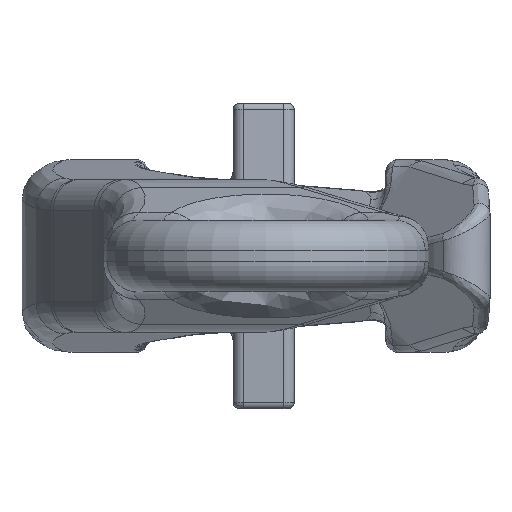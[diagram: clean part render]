
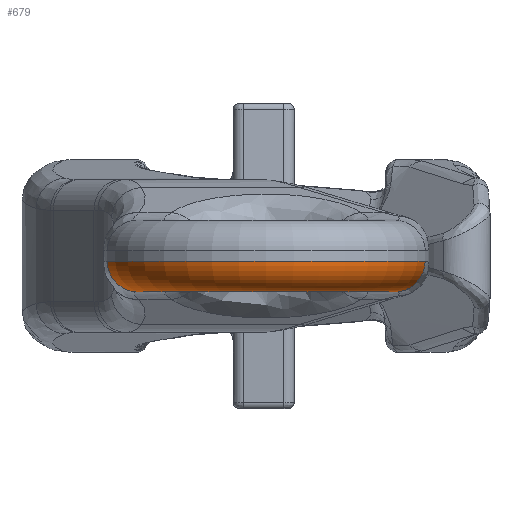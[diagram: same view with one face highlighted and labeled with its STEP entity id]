
A CAD part, left-side view. The second image highlights one B-rep face of the part: STEP entity #679.
In plain terms, the highlighted toroidal (fillet/blend) face has major radius 26 mm and minor radius 6 mm.
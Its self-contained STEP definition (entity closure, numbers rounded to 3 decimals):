
#46=TOROIDAL_SURFACE('',#4044,26.,6.);
#57=CIRCLE('',#3915,32.);
#66=CIRCLE('',#3949,26.);
#119=CIRCLE('',#4043,6.);
#249=(
BOUNDED_CURVE()
B_SPLINE_CURVE(2,(#7494,#7495,#7496),.UNSPECIFIED.,.F.,.F.)
B_SPLINE_CURVE_WITH_KNOTS((3,3),(0.,1.),.UNSPECIFIED.)
CURVE()
GEOMETRIC_REPRESENTATION_ITEM()
RATIONAL_B_SPLINE_CURVE((1.,0.707,1.))
REPRESENTATION_ITEM('')
);
#679=ADVANCED_FACE('',(#1090),#46,.T.);
#1090=FACE_OUTER_BOUND('',#1347,.T.);
#1347=EDGE_LOOP('',(#1995,#1996,#1997,#1998));
#1995=ORIENTED_EDGE('',*,*,#3334,.T.);
#1996=ORIENTED_EDGE('',*,*,#3191,.F.);
#1997=ORIENTED_EDGE('',*,*,#3336,.F.);
#1998=ORIENTED_EDGE('',*,*,#3115,.F.);
#2771=VERTEX_POINT('',#5634);
#2772=VERTEX_POINT('',#5636);
#2833=VERTEX_POINT('',#6059);
#2836=VERTEX_POINT('',#6064);
#3115=EDGE_CURVE('',#2771,#2772,#57,.T.);
#3191=EDGE_CURVE('',#2836,#2833,#66,.T.);
#3334=EDGE_CURVE('',#2771,#2833,#119,.T.);
#3336=EDGE_CURVE('',#2772,#2836,#249,.T.);
#3915=AXIS2_PLACEMENT_3D('',#5635,#4274,#4275);
#3949=AXIS2_PLACEMENT_3D('',#6065,#4359,#4360);
#4043=AXIS2_PLACEMENT_3D('',#7436,#4571,#4572);
#4044=AXIS2_PLACEMENT_3D('',#7497,#4573,#4574);
#4274=DIRECTION('',(0.,0.,1.));
#4275=DIRECTION('',(-1.,0.,0.));
#4359=DIRECTION('',(0.,0.,-1.));
#4360=DIRECTION('',(-1.,0.,0.));
#4571=DIRECTION('',(-0.977,-0.215,0.));
#4572=DIRECTION('',(0.215,-0.977,0.));
#4573=DIRECTION('',(0.,0.,-1.));
#4574=DIRECTION('',(-1.,0.,0.));
#5634=CARTESIAN_POINT('',(-87.609,31.248,-1.));
#5635=CARTESIAN_POINT('',(-80.714,0.,-1.));
#5636=CARTESIAN_POINT('',(-87.609,-31.248,-1.));
#6059=CARTESIAN_POINT('',(-86.316,25.389,-7.));
#6064=CARTESIAN_POINT('',(-86.316,-25.389,-7.));
#6065=CARTESIAN_POINT('',(-80.714,0.,-7.));
#7436=CARTESIAN_POINT('',(-86.316,25.389,-1.));
#7494=CARTESIAN_POINT('',(-87.609,-31.248,-1.));
#7495=CARTESIAN_POINT('',(-87.609,-31.248,-7.));
#7496=CARTESIAN_POINT('',(-86.316,-25.389,-7.));
#7497=CARTESIAN_POINT('',(-80.714,0.,-1.));
